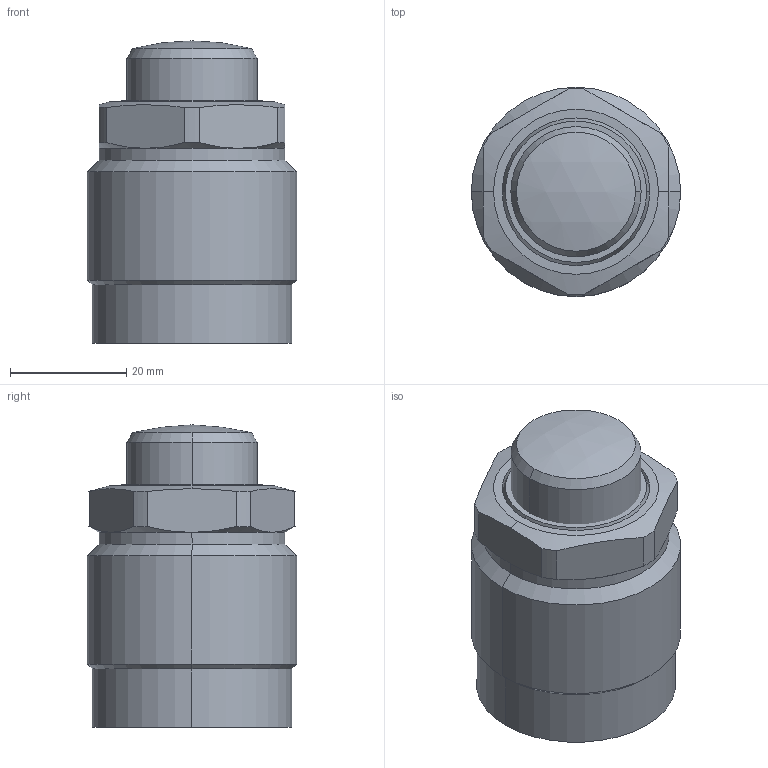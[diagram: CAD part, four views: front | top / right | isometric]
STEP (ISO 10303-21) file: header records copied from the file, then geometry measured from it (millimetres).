
FILE_DESCRIPTION (( 'STEP AP203' ), '1' );
FILE_NAME ('650361-RS.step', '2016-11-02T03:14:33', ( 'wxp' ), ( '' ), 'SwSTEP 2.0', 'SolidWorks 2011', '' );
FILE_SCHEMA (( 'CONFIG_CONTROL_DESIGN' ));
Length unit declared in the file: millimetre
Products named in the file (3): 650361-RS; 葩璃 650361-RS.sldasm-Part-2^650361-RS; 葩璃 650361-RS.sldasm-Part-1^650361-RS
Assembly tree (2 placements, depth 2):
  650361-RS
    葩璃 650361-RS.sldasm-Part-1^650361-RS
    葩璃 650361-RS.sldasm-Part-2^650361-RS
Bounding box: 36 x 36 x 52 mm (x, y, z)
Volume: 43561.5 mm3; surface area: 8739.6 mm2
Topology: 2 solids, 2 shells, 69 faces, 158 edges, 96 vertices
Faces by surface type: cylinder 26, plane 20, cone 16, torus 6, sphere 1
Entity records: 2341 total; most frequent: CARTESIAN_POINT 480, DIRECTION 354, ORIENTED_EDGE 312, AXIS2_PLACEMENT_3D 156, EDGE_CURVE 156, VERTEX_POINT 98, CIRCLE 82, EDGE_LOOP 76
